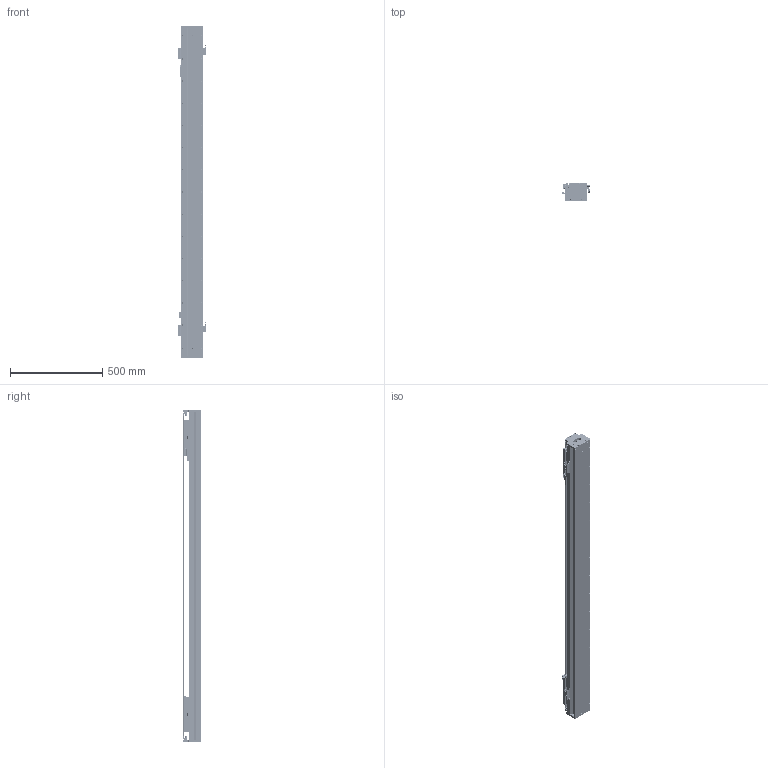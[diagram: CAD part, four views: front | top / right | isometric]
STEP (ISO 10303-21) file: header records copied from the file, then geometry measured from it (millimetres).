
FILE_DESCRIPTION (( 'STEP AP203' ), '1' );
FILE_NAME ('DKW119-2×C2-W060(T1280-L005-0.2).STEP', '2021-09-14T06:18:07', ( '微软用户' ), ( '微软中国' ), 'SwSTEP 2.0', 'SolidWorks 2018', '' );
FILE_SCHEMA (( 'CONFIG_CONTROL_DESIGN' ));
Length unit declared in the file: millimetre
Products named in the file (26): CKM02-W060_00; DKW119 单轴模组-拉钢带组件; CKMA01-W060-TRLxxx; DKW-DG-XJ-Z-00 笢潔滅袉砎蝶; pm-y65; DKW-HXJ-JY-00 遣喳砎蝶; DKW-GYP-ZJ-00 笢潔嫖萇覜茼え; 10980-0001-003-00 嫖萇羲壽嘐隅釱; 11062-0001-004-00 DKW119傷啣; DKW-KGZ-ZJ-00 中间光电开关支架; 嫖萇羲壽蚾饜极; 06652-0001-004-00 DKW120嶺輸菜輸; EE_SX674A; 嫖萇羲壽蚾饜极A; 12018-0001-002-00 詩湍; 12018-0001-001-00 菁釱; DKW119-2×C2-W060(T1280-L005-0.2); DKW-SG-GYP-H-00 嫖萇覜茼え; 砎蝶猾沭; MSB15-DG-U; RUS嫖掑喜; 12160-0000-003-00 DKW120詩湍嶺輸; DKW119-RU-DTJ-00 RU2黍杅芛盓殤; Ru2; 12160-0000-004-00  DKW120詩湍揤輸; 电机出线 ^DKW119-2×C2-W060(T1280-L005-0.2)
Assembly tree (45 placements, depth 3):
  DKW119-2×C2-W060(T1280-L005-0.2)
    12018-0001-001-00 菁釱
    MSB15-DG-U  x2
    DKW119-RU-DTJ-00 RU2黍杅芛盓殤  x2
    电机出线 ^DKW119-2×C2-W060(T1280-L005-0.2)  x2
    CKMA01-W060-TRLxxx
    DKW119 单轴模组-拉钢带组件
      DKW-HXJ-JY-00 遣喳砎蝶  x4
      11062-0001-004-00 DKW119傷啣  x2
      06652-0001-004-00 DKW120嶺輸菜輸  x4
      12018-0001-002-00 詩湍
      砎蝶猾沭  x2
      12160-0000-003-00 DKW120詩湍嶺輸  x2
      12160-0000-004-00  DKW120詩湍揤輸  x2
    嫖萇羲壽蚾饜极
      pm-y65  x2
      10980-0001-003-00 嫖萇羲壽嘐隅釱
    嫖萇羲壽蚾饜极A
      pm-y65  x2
      10980-0001-003-00 嫖萇羲壽嘐隅釱
    DKW-SG-GYP-H-00 嫖萇覜茼え  x2
    RUS嫖掑喜
    Ru2  x2
    CKM02-W060_00  x2
    DKW-DG-XJ-Z-00 笢潔滅袉砎蝶
    DKW-GYP-ZJ-00 笢潔嫖萇覜茼え
    DKW-KGZ-ZJ-00 中间光电开关支架
    EE_SX674A
Bounding box: 154.3 x 99 x 1796 mm (x, y, z)
Volume: 8606272.3 mm3; surface area: 2729023.6 mm2
Topology: 62 solids, 160 shells, 6409 faces, 16982 edges, 10870 vertices
Faces by surface type: plane 3452, cylinder 1929, cone 534, bspline 494
Entity records: 132111 total; most frequent: CARTESIAN_POINT 43758, ORIENTED_EDGE 17683, DIRECTION 17062, EDGE_CURVE 8882, VERTEX_POINT 5820, AXIS2_PLACEMENT_3D 5742, LINE 5578, VECTOR 5578
